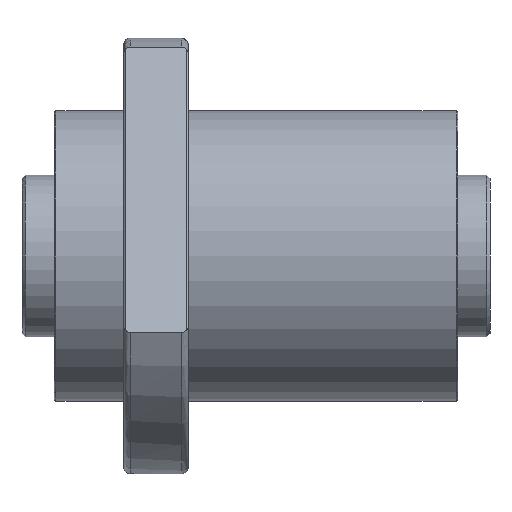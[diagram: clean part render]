
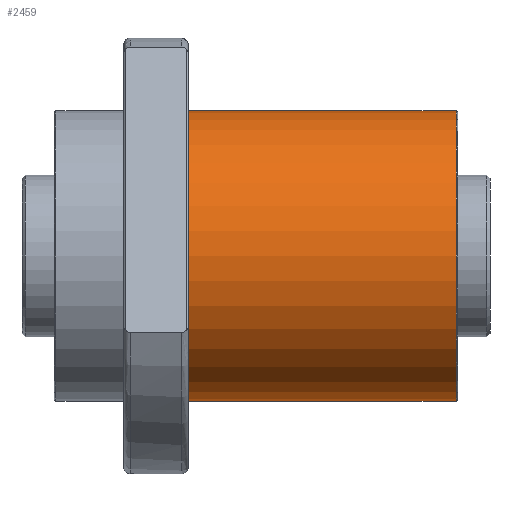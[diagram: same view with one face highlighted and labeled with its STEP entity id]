
A CAD part, front view. The second image highlights one B-rep face of the part: STEP entity #2459.
In plain terms, the highlighted cylindrical face has radius 45 mm (diameter 90 mm), a partial arc.
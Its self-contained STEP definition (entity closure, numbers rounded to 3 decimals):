
#23 = AXIS2_PLACEMENT_3D ( 'NONE', #2595, #1555, #1039 ) ;
#32 = DIRECTION ( 'NONE',  ( -1., 0., 0. ) ) ;
#197 = CIRCLE ( 'NONE', #3294, 45. ) ;
#377 = EDGE_CURVE ( 'NONE', #2238, #1808, #2059, .T. ) ;
#525 = VERTEX_POINT ( 'NONE', #690 ) ;
#555 = CARTESIAN_POINT ( 'NONE',  ( 82.09, -16.053, 20.563 ) ) ;
#690 = CARTESIAN_POINT ( 'NONE',  ( 165.09, -16.053, 20.563 ) ) ;
#792 = CARTESIAN_POINT ( 'NONE',  ( 82.09, -16.053, 110.563 ) ) ;
#823 = CARTESIAN_POINT ( 'NONE',  ( 82.09, -16.053, 20.563 ) ) ;
#856 = ORIENTED_EDGE ( 'NONE', *, *, #2954, .T. ) ;
#1003 = CARTESIAN_POINT ( 'NONE',  ( 82.09, -16.053, 110.563 ) ) ;
#1034 = ORIENTED_EDGE ( 'NONE', *, *, #2511, .T. ) ;
#1039 = DIRECTION ( 'NONE',  ( 0., 0., -1. ) ) ;
#1278 = CIRCLE ( 'NONE', #23, 45. ) ;
#1282 = AXIS2_PLACEMENT_3D ( 'NONE', #1336, #2579, #2106 ) ;
#1336 = CARTESIAN_POINT ( 'NONE',  ( 82.09, -16.053, 65.563 ) ) ;
#1345 = EDGE_CURVE ( 'NONE', #2238, #1519, #1278, .T. ) ;
#1472 = FACE_OUTER_BOUND ( 'NONE', #2046, .T. ) ;
#1519 = VERTEX_POINT ( 'NONE', #823 ) ;
#1555 = DIRECTION ( 'NONE',  ( 1., 0., 0. ) ) ;
#1808 = VERTEX_POINT ( 'NONE', #2293 ) ;
#2037 = ORIENTED_EDGE ( 'NONE', *, *, #1345, .T. ) ;
#2046 = EDGE_LOOP ( 'NONE', ( #3201, #2037, #856, #1034 ) ) ;
#2059 = LINE ( 'NONE', #792, #2860 ) ;
#2106 = DIRECTION ( 'NONE',  ( 0., 0., -1. ) ) ;
#2114 = VECTOR ( 'NONE', #2584, 1000. ) ;
#2238 = VERTEX_POINT ( 'NONE', #1003 ) ;
#2293 = CARTESIAN_POINT ( 'NONE',  ( 165.09, -16.053, 110.563 ) ) ;
#2329 = CARTESIAN_POINT ( 'NONE',  ( 165.09, -16.053, 65.563 ) ) ;
#2459 = ADVANCED_FACE ( 'NONE', ( #1472 ), #2503, .T. ) ;
#2503 = CYLINDRICAL_SURFACE ( 'NONE', #1282, 45. ) ;
#2511 = EDGE_CURVE ( 'NONE', #525, #1808, #197, .T. ) ;
#2561 = DIRECTION ( 'NONE',  ( 0., 0., -1. ) ) ;
#2579 = DIRECTION ( 'NONE',  ( 1., 0., 0. ) ) ;
#2584 = DIRECTION ( 'NONE',  ( 1., 0., 0. ) ) ;
#2595 = CARTESIAN_POINT ( 'NONE',  ( 82.09, -16.053, 65.563 ) ) ;
#2792 = LINE ( 'NONE', #555, #2114 ) ;
#2860 = VECTOR ( 'NONE', #3055, 1000. ) ;
#2954 = EDGE_CURVE ( 'NONE', #1519, #525, #2792, .T. ) ;
#3055 = DIRECTION ( 'NONE',  ( 1., 0., 0. ) ) ;
#3201 = ORIENTED_EDGE ( 'NONE', *, *, #377, .F. ) ;
#3294 = AXIS2_PLACEMENT_3D ( 'NONE', #2329, #32, #2561 ) ;
